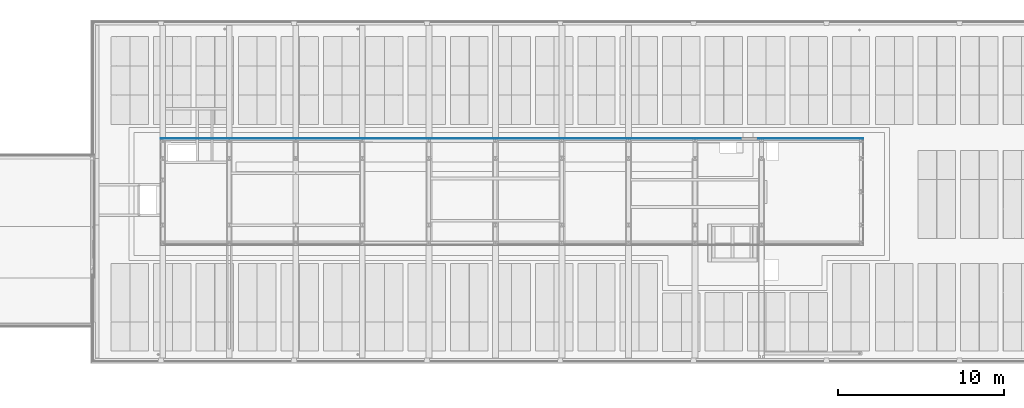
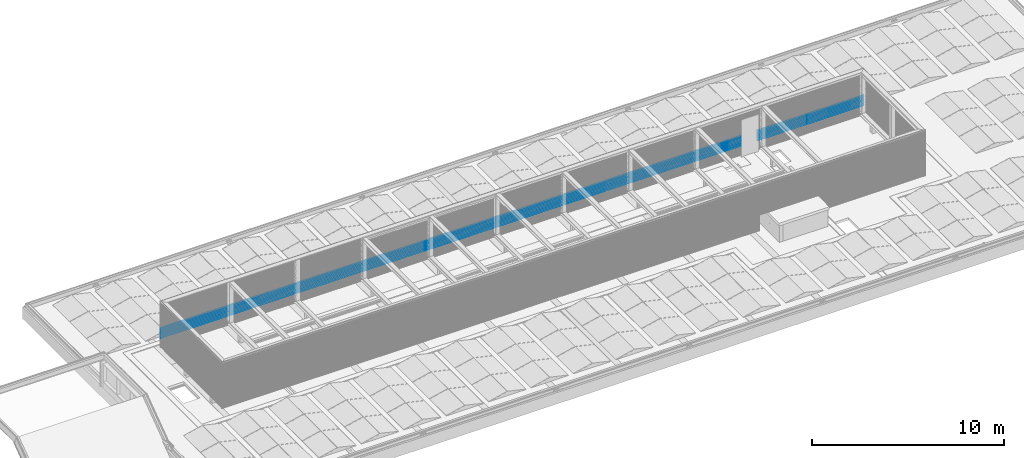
# One storey, part 50 of 63: 9 building element parts, 1 opening, 1 element without a shape of its own.
"""IFC2X3 building model written with IfcOpenShell, lengths in millimetres."""

import ifcopenshell
import ifcopenshell.guid

model = None  # the IFC model being written
_history = None  # IfcOwnerHistory: only IFC2X3 demands one
_inside = {}  # id of a spatial element -> (the spatial element, [elements in it])
_under = {}  # id of a project, library or spatial element -> (it, [spatial elements below it])
_declared = {}  # id of a project -> (the project, [libraries it declares])
_typed = {}  # id of a type object -> (the type object, [elements of that type])
_made_of = {}  # id of a material, layer set ... -> (it, [elements and type objects made of it])


def new_model(schema):
    """Start an empty IFC model of exactly this schema.

    Asked for "IFC4X3", IfcOpenShell would pick the latest addendum, in which some entities
    have other attributes; the version numbers below select the first issue.
    IFC2X3 requires an IfcOwnerHistory on every rooted entity: one is made here for all.
    """
    global model, _history
    if schema == "IFC4X3":
        model = ifcopenshell.file(schema_version=(4, 3, 0, 0))
    else:
        model = ifcopenshell.file(schema=schema)
    _inside.clear()
    _under.clear()
    _declared.clear()
    _typed.clear()
    _made_of.clear()
    _history = None
    if model.schema == "IFC2X3":
        org = make("IfcOrganization", Name="unknown")
        user = make(
            "IfcPersonAndOrganization",
            ThePerson=make("IfcPerson", FamilyName="unknown"),
            TheOrganization=org,
        )
        app = make(
            "IfcApplication",
            ApplicationDeveloper=org,
            Version="unknown",
            ApplicationFullName="unknown",
            ApplicationIdentifier="unknown",
        )
        _history = make(
            "IfcOwnerHistory",
            OwningUser=user,
            OwningApplication=app,
            ChangeAction="ADDED",
            CreationDate=0,
        )
    return model


def make(cls, **values):
    """One entity of the class cls with the attributes given. An attribute that is None is left unset."""
    return model.create_entity(
        cls, **{name: value for name, value in values.items() if value is not None}
    )


def entity(cls, *values):
    """Any entity or typed value of the class cls, its attributes in the order of the schema. None: left unset."""
    e = model.create_entity(cls)
    for i, value in enumerate(values):
        if value is not None:
            e[i] = value
    return e


def rooted(cls, **values):
    """An entity with a GlobalId (a new one), such as an element, a storey or a relation."""
    return make(cls, GlobalId=ifcopenshell.guid.new(), OwnerHistory=_history, **values)


def si_unit(unit_type, name, prefix=None):
    """IfcSIUnit, for example si_unit("LENGTHUNIT", "METRE", prefix="MILLI")."""
    return make("IfcSIUnit", UnitType=unit_type, Prefix=prefix, Name=name)


def converted_unit(unit_type, name, factor, base, dimensions=None, offset=None):
    """IfcConversionBasedUnit, such as the inch: factor (a typed value) times the base unit."""
    return make(
        "IfcConversionBasedUnit"
        if offset is None
        else "IfcConversionBasedUnitWithOffset",
        ConversionOffset=offset,
        Dimensions=None
        if dimensions is None
        else entity("IfcDimensionalExponents", *dimensions),
        UnitType=unit_type,
        Name=name,
        ConversionFactor=make(
            "IfcMeasureWithUnit", ValueComponent=factor, UnitComponent=base
        ),
    )


def derived_unit(unit_type, elements):
    """IfcDerivedUnit: a product of units, each with its exponent."""
    return make(
        "IfcDerivedUnit",
        Elements=[
            make("IfcDerivedUnitElement", Unit=unit, Exponent=power)
            for unit, power in elements
        ],
        UnitType=unit_type,
    )


def money_unit(currency):
    """IfcMonetaryUnit."""
    return make("IfcMonetaryUnit", Currency=currency)


def assignment(units):
    """IfcUnitAssignment: the units of a project."""
    return None if units is None else make("IfcUnitAssignment", Units=units)


def point(xyz):
    """IfcCartesianPoint."""
    return None if xyz is None else make("IfcCartesianPoint", Coordinates=xyz)


def direction(xyz):
    """IfcDirection."""
    return None if xyz is None else make("IfcDirection", DirectionRatios=xyz)


def frame(location, z_axis=None, x_axis=None):
    """IfcAxis2Placement3D, a coordinate frame: its origin and axes. An axis left out is left unset."""
    return make(
        "IfcAxis2Placement3D",
        Location=point(location),
        Axis=direction(z_axis),
        RefDirection=direction(x_axis),
    )


def origin_with_axes():
    """The frame at (0, 0, 0) with the z axis (0, 0, 1) and the x axis (1, 0, 0) written out."""
    return frame((0.0, 0.0, 0.0), z_axis=(0.0, 0.0, 1.0), x_axis=(1.0, 0.0, 0.0))


def place(relative_to, where):
    """IfcLocalPlacement: puts the frame where relative to a parent placement (None: the world)."""
    return make(
        "IfcLocalPlacement", PlacementRelTo=relative_to, RelativePlacement=where
    )


def context(
    kind, dimensions, precision=None, world=None, true_north=None, identifier=None
):
    """IfcGeometricRepresentationContext, for example the 3D "Model" context."""
    return make(
        "IfcGeometricRepresentationContext",
        ContextIdentifier=identifier,
        ContextType=kind,
        CoordinateSpaceDimension=dimensions,
        Precision=precision,
        WorldCoordinateSystem=world,
        TrueNorth=true_north,
    )


def subcontext(parent, identifier, kind, view, scale=None):
    """IfcGeometricRepresentationSubContext, for example "Body" below "Model"."""
    return make(
        "IfcGeometricRepresentationSubContext",
        ContextIdentifier=identifier,
        ContextType=kind,
        ParentContext=parent,
        TargetScale=scale,
        TargetView=view,
    )


def project(units=None, contexts=None):
    """IfcProject with its units and contexts."""
    return rooted(
        "IfcProject",
        Name="project",
        RepresentationContexts=contexts,
        UnitsInContext=assignment(units),
    )


def spatial(cls, under=None, at=None, **own):
    """A site, building, storey or space (cls), placed at a placement, below another one or the project."""
    s = rooted(cls, ObjectPlacement=at, **own)
    if under is not None:
        _under.setdefault(under.id(), (under, []))[1].append(s)
    return s


def faces_of(points, faces, orient=None, outer=None):
    """IfcFace entities. A face is a list of loops; a loop is a list of indices into points, from 0.

    orient and outer hold one flag for each loop. By default every Orientation is true, the
    first loop of a face is its IfcFaceOuterBound and the others are IfcFaceBound.
    """
    made = []
    for i, loops in enumerate(faces):
        bounds = []
        for j, loop in enumerate(loops):
            is_outer = j == 0 if outer is None else outer[i][j]
            bounds.append(
                make(
                    "IfcFaceOuterBound" if is_outer else "IfcFaceBound",
                    Bound=make("IfcPolyLoop", Polygon=[points[k] for k in loop]),
                    Orientation=True if orient is None else orient[i][j],
                )
            )
        made.append(make("IfcFace", Bounds=bounds))
    return made


def faceted_brep(points, faces, orient=None, outer=None, voids=None):
    """IfcFacetedBrep: a solid bounded by flat faces; with voids (closed shells), ...WithVoids."""
    shared = [point(p) for p in points]
    hull = make("IfcClosedShell", CfsFaces=faces_of(shared, faces, orient, outer))
    if voids is None:
        return make("IfcFacetedBrep", Outer=hull)
    return make(
        "IfcFacetedBrepWithVoids",
        Outer=hull,
        Voids=[
            make(cls, CfsFaces=faces_of(shared, fs, o, b)) for cls, fs, o, b in voids
        ],
    )


def shape(context_of_items, identifier, shape_type, items):
    """IfcShapeRepresentation: the items that make up one representation, for example the "Body"."""
    return make(
        "IfcShapeRepresentation",
        ContextOfItems=context_of_items,
        RepresentationIdentifier=identifier,
        RepresentationType=shape_type,
        Items=items,
    )


def material(Name=None, Category=None):
    """IfcMaterial."""
    return make("IfcMaterial", Name=Name, Category=Category)


def made_of(thing, what):
    """Note that an element or type object is made of a material, layer set ...; save() writes the relation."""
    if what is not None:
        _made_of.setdefault(what.id(), (what, []))[1].append(thing)
    return thing


def type_object(cls, material=None, **own):
    """A type object (cls), such as IfcWallType, which elements share."""
    return made_of(rooted(cls, **own), material)


def element(
    cls,
    number,
    at=None,
    inside=None,
    cuts=None,
    type_object=None,
    material=None,
    context=None,
    identifier="Body",
    shape_type=None,
    held_by="IfcProductDefinitionShape",
    body=None,
    shapes=None,
    **own,
):
    """One element of the class cls, such as IfcWall. Its Tag is "e" and its number.

    at: its placement. inside: the storey or other place that contains it. cuts: it is an
    opening in that element (IfcRelVoidsElement). A single representation is given by context,
    identifier, shape_type and body (its items); several are given by shapes. held_by: the class
    of the entity that holds the representations. save() writes the other relations.
    """
    e = rooted(cls, Tag="e%d" % number, ObjectPlacement=at, **own)
    if body is not None:
        shapes = [shape(context, identifier, shape_type, body)]
    if shapes is not None:
        e.Representation = make(held_by, Representations=shapes)
    if inside is not None:
        _inside.setdefault(inside.id(), (inside, []))[1].append(e)
    if cuts is not None:
        rooted(
            "IfcRelVoidsElement", RelatingBuildingElement=cuts, RelatedOpeningElement=e
        )
    if type_object is not None:
        _typed.setdefault(type_object.id(), (type_object, []))[1].append(e)
    return made_of(e, material)


def aggregate(whole, parts):
    """IfcRelAggregates: a whole, such as a stair, and the parts it consists of."""
    return rooted("IfcRelAggregates", RelatingObject=whole, RelatedObjects=parts)


def save(model, path):
    """Write the relations noted so far, then the file.

    IfcRelAggregates (storeys below a building ...), IfcRelContainedInSpatialStructure (elements
    in a storey), IfcRelDefinesByType, IfcRelAssociatesMaterial and IfcRelDeclares: one each for
    every whole, place, type object, material and project.
    """
    for whole, parts in _under.values():
        aggregate(whole, parts)
    for where, things in _inside.values():
        rooted(
            "IfcRelContainedInSpatialStructure",
            RelatedElements=things,
            RelatingStructure=where,
        )
    for kind, things in _typed.values():
        rooted("IfcRelDefinesByType", RelatedObjects=things, RelatingType=kind)
    for what, things in _made_of.values():
        rooted("IfcRelAssociatesMaterial", RelatedObjects=things, RelatingMaterial=what)
    for by, libraries in _declared.values():
        rooted("IfcRelDeclares", RelatingContext=by, RelatedDefinitions=libraries)
    model.write(path)


model = new_model("IFC2X3")

# Units and contexts
model_context = context("Model", 3, precision=0.01, world=origin_with_axes(), true_north=direction((0.0, 1.0)))
body_context = subcontext(model_context, "Body", "Model", "MODEL_VIEW")
ifc_project = project(units=[si_unit("LENGTHUNIT", "METRE", prefix="MILLI"), si_unit("AREAUNIT", "SQUARE_METRE"), si_unit("VOLUMEUNIT", "CUBIC_METRE"), converted_unit("PLANEANGLEUNIT", "DEGREE", entity("IfcPlaneAngleMeasure", 0.0174532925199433), si_unit("PLANEANGLEUNIT", "RADIAN"), dimensions=[0, 0, 0, 0, 0, 0, 0]), money_unit("EUR"), converted_unit("TIMEUNIT", "Year", entity("IfcTimeMeasure", 31557600.0), si_unit("TIMEUNIT", "SECOND"), dimensions=[0, 0, 1, 0, 0, 0, 0]), si_unit("MASSUNIT", "GRAM", prefix="KILO"), si_unit("THERMODYNAMICTEMPERATUREUNIT", "DEGREE_CELSIUS"), si_unit("LUMINOUSINTENSITYUNIT", "LUMEN"), si_unit("ENERGYUNIT", "JOULE", prefix="MEGA"), derived_unit("THERMALCONDUCTANCEUNIT", [(si_unit("POWERUNIT", "WATT"), 1), (si_unit("LENGTHUNIT", "METRE"), -1), (si_unit("THERMODYNAMICTEMPERATUREUNIT", "KELVIN"), -1)]), derived_unit("SPECIFICHEATCAPACITYUNIT", [(si_unit("ENERGYUNIT", "JOULE"), 1), (si_unit("MASSUNIT", "GRAM", prefix="KILO"), -1), (si_unit("THERMODYNAMICTEMPERATUREUNIT", "KELVIN"), -1)]), derived_unit("MASSDENSITYUNIT", [(si_unit("MASSUNIT", "GRAM", prefix="KILO"), 1), (si_unit("VOLUMEUNIT", "CUBIC_METRE"), -1)])], contexts=[model_context])

# Site, building, storey
site_placement = place(None, origin_with_axes())
site = spatial("IfcSite", under=ifc_project, at=site_placement, Name="<site naam>", CompositionType="ELEMENT")
building_placement = place(site_placement, origin_with_axes())
building = spatial("IfcBuilding", under=site, at=building_placement, Name="<Naam gebouw>", CompositionType="ELEMENT")
storey_placement = place(building_placement, frame((0.0, 0.0, 12770.0), z_axis=(0.0, 0.0, 1.0), x_axis=(1.0, 0.0, 0.0)))
storey = spatial("IfcBuildingStorey", under=building, at=storey_placement, Name="04 4e verdieping", CompositionType="ELEMENT", Elevation=12770.0)

# Wall, opening, building element parts
wall_type = type_object("IfcWallType", Name="Gevelbeplating golf 18 x 2900", PredefinedType="NOTDEFINED")
wall_placement = place(storey_placement, frame((58128.00007858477, 13218.00009009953, 299.9552842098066), z_axis=(0.0, 0.0, 1.0), x_axis=(-1.0, 0.0, 0.0)))
wall = element("IfcWall", 1, at=wall_placement, inside=storey, type_object=wall_type, Name="47_Binnenwand_Gevelbeplating")
opening_placement = place(wall_placement, frame((6856.073474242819, 0.0, -120.0392154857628), z_axis=(0.0, 0.0, 1.0), x_axis=(1.0, 0.0, 0.0)))
element("IfcOpeningElement", 2, at=opening_placement, cuts=wall, Name="47_BU-F-02_305", context=body_context, shape_type="Brep", body=[
    faceted_brep([(517.000000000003, 19.00000000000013, 2367.000000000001), (517.000000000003, 19.00000000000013, 0.0), (-517.000000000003, 19.00000000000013, 0.0), (-517.000000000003, 19.00000000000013, 2367.000000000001), (517.000000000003, -1.000078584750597, 2367.000000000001), (517.000000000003, -1.000078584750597, 0.0), (-517.000000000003, -1.000078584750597, 0.0), (-517.000000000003, -1.000078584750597, 2367.000000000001)], [[[0, 1, 2, 3]], [[4, 5, 1, 0]], [[5, 6, 2, 1]], [[6, 7, 3, 2]], [[7, 4, 0, 3]], [[6, 5, 4, 7]]]),
])
ifc_material = material(Name="gevelafwerking type 3 - Aluminium RAL1036")
building_element_part_1_placement = place(wall_placement, origin_with_axes())
building_element_part_1 = element("IfcBuildingElementPart", 3, at=building_element_part_1_placement, material=ifc_material, Name="gevelafwerking type 3 - Aluminium RAL1036", context=body_context, shape_type="Brep", body=[
    faceted_brep([(18238.00007858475, 14.77518280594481, 597.6343117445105), (18238.00007858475, 10.1433027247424, 591.2409035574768), (18018.00007858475, 10.1433027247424, 591.2409035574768), (18018.00007858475, 14.77518280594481, 597.6343117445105), (15.69998590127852, 14.77518280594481, 597.6343117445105), (15.62924858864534, 14.5442206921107, 597.3155113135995), (9.398109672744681, 8.555238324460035, 589.0488877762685), (42247.44495090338, 8.555238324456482, 589.0488877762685), (42241.22498571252, 14.77518280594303, 597.6343117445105), (18238.00007858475, 16.99998333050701, 607.9999993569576), (18238.00007858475, 17.99998571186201, 607.9999993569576), (18238.00007858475, 15.62924858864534, 597.3155113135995), (18238.00007858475, 10.1433027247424, 590.0375080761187), (18018.00007858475, 10.1433027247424, 590.0375080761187), (18018.00007858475, 15.62924858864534, 597.3155113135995), (18018.00007858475, 17.99998571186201, 607.999999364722), (18018.00007858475, 16.99998333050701, 607.999999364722), (17.99998571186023, 16.99998333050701, 608.0000000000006), (17.99998571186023, 17.99998571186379, 608.0000000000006), (15.62924858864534, 15.62924858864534, 597.3155113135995), (9.041569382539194, 9.04156938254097, 588.5758788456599), (9.041569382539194, 8.209533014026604, 588.5758788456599), (3.34011144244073, 2.257344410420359, 580.4317883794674), (42253.74282987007, 2.257344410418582, 580.4317883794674), (42247.44495090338, 9.398109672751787, 589.0488877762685), (42241.45595014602, 15.62924858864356, 597.3155113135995), (42241.22498571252, 15.69998590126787, 597.6343117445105), (42239.00018658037, 16.99998333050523, 607.9999985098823), (42239.00018658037, 17.99998571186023, 607.9999985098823), (42247.79065342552, 9.041569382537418, 588.5758788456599), (3.116464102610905, 3.116464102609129, 580.1123255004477), (3.116464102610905, 2.188217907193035, 580.1123255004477), (42256.00021191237, -1.428813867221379e-05, 569.9999850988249), (0.9999857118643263, -1.428813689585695e-05, 570.0000000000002), (42253.74282987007, 3.340111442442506, 580.4317883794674), (42253.81195979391, 3.116464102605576, 580.1123255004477), (0.9999857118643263, 0.9999857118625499, 570.0000000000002), (42256.00021191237, 0.9999857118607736, 569.9999850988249)], [[[0, 1, 2, 3, 4, 5, 6, 7, 8]], [[1, 0, 9, 10, 11, 12]], [[2, 1, 12, 13]], [[3, 2, 13, 14, 15, 16]], [[3, 16, 17, 4]], [[18, 19, 5, 4, 17]], [[19, 20, 21, 6, 5]], [[7, 6, 21, 22, 23]], [[24, 25, 26, 8, 7]], [[9, 0, 8, 27]], [[10, 9, 27, 28]], [[11, 10, 28, 26, 25]], [[12, 11, 25, 24, 29, 20, 19, 14, 13]], [[15, 14, 19, 18]], [[16, 15, 18, 17]], [[20, 30, 31, 22, 21]], [[32, 23, 22, 31, 33]], [[34, 29, 24, 7, 23]], [[8, 26, 28, 27]], [[34, 35, 30, 20, 29]], [[31, 30, 36, 33]], [[37, 35, 34, 23, 32]], [[37, 32, 33, 36]], [[35, 37, 36, 30]]]),
])
building_element_part_2_placement = place(wall_placement, origin_with_axes())
building_element_part_2 = element("IfcBuildingElementPart", 4, at=building_element_part_2_placement, material=ifc_material, Name="gevelafwerking type 3 - Aluminium RAL1036", context=body_context, shape_type="Brep", body=[
    faceted_brep([(18238.00007858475, 14.77518042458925, 673.6342953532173), (18238.00007858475, 10.1433027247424, 667.240890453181), (18018.00007858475, 10.1433027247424, 667.240890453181), (18018.00007858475, 14.77518042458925, 673.6342953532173), (15.69997988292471, 14.77518042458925, 673.6342953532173), (15.62924620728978, 14.54423018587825, 673.3155113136), (9.398094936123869, 8.555235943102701, 665.0488713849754), (42247.44495090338, 8.555235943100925, 665.0488713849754), (42241.22498571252, 14.77518042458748, 673.6342953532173), (18238.00007858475, 16.99998094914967, 683.9999922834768), (18238.00007858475, 17.99998333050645, 683.9999922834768), (18238.00007858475, 15.62924620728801, 673.3155113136), (18238.00007858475, 10.1433027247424, 666.0375112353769), (18018.00007858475, 10.1433027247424, 666.0375112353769), (18018.00007858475, 15.62924620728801, 673.3155113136), (18018.00007858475, 17.99998333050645, 683.9999923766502), (18018.00007858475, 16.99998094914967, 683.9999923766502), (17.99998333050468, 16.99998094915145, 683.9999999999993), (17.99998333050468, 17.99998333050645, 683.9999999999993), (15.62924620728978, 15.62924620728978, 673.3155113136), (9.041567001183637, 9.041567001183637, 664.5758788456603), (9.041567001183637, 8.209542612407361, 664.5758788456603), (3.34009758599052, 2.257342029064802, 656.4317719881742), (42253.74282987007, 2.257342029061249, 656.4317719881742), (42247.44495090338, 9.398094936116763, 665.0488713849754), (42241.45593827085, 15.62924620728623, 673.3155113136), (42241.22498571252, 15.69997988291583, 673.6342953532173), (42239.00018658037, 16.9999809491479, 683.9999821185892), (42239.00018658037, 17.99998333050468, 683.9999821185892), (42247.79064144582, 9.04156700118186, 664.5758788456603), (3.116461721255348, 3.116461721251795, 656.1123255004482), (3.116461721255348, 2.188209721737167, 656.1123255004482), (42256.0002072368, -1.666949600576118e-05, 646.0000119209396), (0.9999833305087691, -1.66694924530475e-05, 645.999999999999), (42253.74282987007, 3.340097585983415, 656.4317719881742), (42253.81196092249, 3.116461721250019, 656.1123255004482), (0.9999833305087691, 0.9999833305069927, 645.999999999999), (42256.0002072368, 0.9999833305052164, 646.0000119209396)], [[[0, 1, 2, 3, 4, 5, 6, 7, 8]], [[1, 0, 9, 10, 11, 12]], [[2, 1, 12, 13]], [[3, 2, 13, 14, 15, 16]], [[3, 16, 17, 4]], [[18, 19, 5, 4, 17]], [[19, 20, 21, 6, 5]], [[7, 6, 21, 22, 23]], [[24, 25, 26, 8, 7]], [[9, 0, 8, 27]], [[10, 9, 27, 28]], [[11, 10, 28, 26, 25]], [[12, 11, 25, 24, 29, 20, 19, 14, 13]], [[15, 14, 19, 18]], [[16, 15, 18, 17]], [[20, 30, 31, 22, 21]], [[32, 23, 22, 31, 33]], [[34, 29, 24, 7, 23]], [[8, 26, 28, 27]], [[34, 35, 30, 20, 29]], [[31, 30, 36, 33]], [[37, 35, 34, 23, 32]], [[37, 32, 33, 36]], [[35, 37, 36, 30]]]),
])
building_element_part_3_placement = place(wall_placement, origin_with_axes())
building_element_part_3 = element("IfcBuildingElementPart", 5, at=building_element_part_3_placement, material=ifc_material, Name="gevelafwerking type 3 - Aluminium RAL1036", context=body_context, shape_type="Brep", body=[
    faceted_brep([(18238.00007858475, 14.77517804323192, 749.6343221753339), (18238.00007858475, 10.1433027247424, 743.240920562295), (18018.00007858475, 10.1433027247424, 743.240920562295), (18018.00007858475, 14.77517804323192, 749.6343221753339), (15.69998345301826, 14.77517804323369, 749.6343221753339), (15.62924382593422, 14.54420837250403, 749.3155113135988), (9.398112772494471, 8.55523356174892, 741.0488982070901), (42247.44495090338, 8.555233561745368, 741.0488982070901), (42241.22498571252, 14.77517804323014, 749.6343221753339), (18238.00007858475, 16.99997856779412, 760.000003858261), (18238.00007858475, 17.9999809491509, 760.000003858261), (18238.00007858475, 15.62924382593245, 749.3155113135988), (18238.00007858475, 10.1433027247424, 742.0375143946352), (18018.00007858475, 10.1433027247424, 742.0375143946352), (18018.00007858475, 15.62924382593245, 749.3155113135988), (18018.00007858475, 17.9999809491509, 760.0000038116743), (18018.00007858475, 16.99997856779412, 760.0000038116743), (17.99998094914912, 16.99997856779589, 759.9999999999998), (17.99998094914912, 17.9999809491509, 759.9999999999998), (15.62924382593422, 15.62924382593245, 749.3155113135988), (9.04156461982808, 9.04156461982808, 740.5758788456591), (9.04156461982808, 8.209520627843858, 740.5758788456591), (3.340113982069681, 2.257339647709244, 732.4317988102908), (42253.74282987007, 2.257339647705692, 732.4317988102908), (42247.44495090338, 9.398112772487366, 741.0488982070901), (42241.45595770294, 15.62924382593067, 749.3155113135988), (42241.22498571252, 15.69998345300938, 749.6343221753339), (42239.00018658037, 16.99997856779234, 760.0000089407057), (42239.00018658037, 17.99998094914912, 760.0000089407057), (42247.79066104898, 9.041564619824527, 740.5758788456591), (3.116459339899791, 3.116459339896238, 732.1123255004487), (3.116459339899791, 2.18821088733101, 732.1123255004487), (42256.00021191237, -1.905085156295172e-05, 721.9999955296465), (0.9999809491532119, -1.905084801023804e-05, 721.9999999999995), (42253.74282987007, 3.340113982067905, 732.4317988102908), (42253.81196205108, 3.116459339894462, 732.1123255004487), (0.9999809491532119, 0.9999809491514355, 721.9999999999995), (42256.00021191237, 0.9999809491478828, 721.9999955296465)], [[[0, 1, 2, 3, 4, 5, 6, 7, 8]], [[1, 0, 9, 10, 11, 12]], [[2, 1, 12, 13]], [[3, 2, 13, 14, 15, 16]], [[3, 16, 17, 4]], [[18, 19, 5, 4, 17]], [[19, 20, 21, 6, 5]], [[7, 6, 21, 22, 23]], [[24, 25, 26, 8, 7]], [[9, 0, 8, 27]], [[10, 9, 27, 28]], [[11, 10, 28, 26, 25]], [[12, 11, 25, 24, 29, 20, 19, 14, 13]], [[15, 14, 19, 18]], [[16, 15, 18, 17]], [[20, 30, 31, 22, 21]], [[32, 23, 22, 31, 33]], [[34, 29, 24, 7, 23]], [[8, 26, 28, 27]], [[34, 35, 30, 20, 29]], [[31, 30, 36, 33]], [[37, 35, 34, 23, 32]], [[37, 32, 33, 36]], [[35, 37, 36, 30]]]),
])
building_element_part_4_placement = place(wall_placement, origin_with_axes())
building_element_part_4 = element("IfcBuildingElementPart", 6, at=building_element_part_4_placement, material=ifc_material, Name="gevelafwerking type 3 - Aluminium RAL1036", context=body_context, shape_type="Brep", body=[
    faceted_brep([(18238.00007858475, 14.7751732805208, 901.6343326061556), (18238.00007858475, 10.1433027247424, 895.2409375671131), (18018.00007858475, 10.1433027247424, 895.2409375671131), (18018.00007858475, 14.7751732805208, 901.6343326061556), (15.699981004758, 14.7751732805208, 901.6343326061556), (15.62923906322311, 14.54419605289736, 901.3155113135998), (9.398115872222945, 8.55522879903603, 893.0489086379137), (42247.44495090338, 8.555228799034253, 893.0489086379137), (42241.22498571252, 14.77517328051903, 901.6343326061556), (18238.00007858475, 16.99997380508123, 912.0000083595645), (18238.00007858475, 17.999976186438, 912.0000083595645), (18238.00007858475, 15.62923906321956, 901.3155113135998), (18238.00007858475, 10.1433027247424, 894.0375207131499), (18018.00007858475, 10.1433027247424, 894.0375207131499), (18018.00007858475, 15.62923906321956, 901.3155113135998), (18018.00007858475, 17.999976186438, 912.0000082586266), (18018.00007858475, 16.99997380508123, 912.0000082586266), (17.999976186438, 16.999973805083, 911.9999999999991), (17.999976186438, 17.99997618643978, 911.9999999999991), (15.62923906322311, 15.62923906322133, 901.3155113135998), (9.041559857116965, 9.041559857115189, 892.5758788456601), (9.041559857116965, 8.209508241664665, 892.5758788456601), (3.340116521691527, 2.257334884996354, 884.4318092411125), (42253.74282987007, 2.257334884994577, 884.4318092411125), (42247.44495090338, 9.398115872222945, 893.0489086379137), (42241.45596525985, 15.62923906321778, 901.3155113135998), (42241.22498571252, 15.69998100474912, 901.6343326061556), (42239.00018658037, 16.99997380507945, 912.0000193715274), (42239.00018658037, 17.99997618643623, 912.0000193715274), (42247.79066867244, 9.041559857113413, 892.5758788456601), (3.116454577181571, 3.116454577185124, 884.1123255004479), (3.116454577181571, 2.188203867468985, 884.1123255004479), (42256.00021191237, -2.381356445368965e-05, 874.00000596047), (0.9999761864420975, -2.381356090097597e-05, 874.0000000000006), (42253.74282987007, 3.340116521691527, 884.4318092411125), (42253.81196430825, 3.116454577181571, 884.1123255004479), (0.9999761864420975, 0.9999761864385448, 874.0000000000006), (42256.00021191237, 0.9999761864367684, 874.00000596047)], [[[0, 1, 2, 3, 4, 5, 6, 7, 8]], [[1, 0, 9, 10, 11, 12]], [[2, 1, 12, 13]], [[3, 2, 13, 14, 15, 16]], [[3, 16, 17, 4]], [[18, 19, 5, 4, 17]], [[19, 20, 21, 6, 5]], [[7, 6, 21, 22, 23]], [[24, 25, 26, 8, 7]], [[9, 0, 8, 27]], [[10, 9, 27, 28]], [[11, 10, 28, 26, 25]], [[12, 11, 25, 24, 29, 20, 19, 14, 13]], [[15, 14, 19, 18]], [[16, 15, 18, 17]], [[20, 30, 31, 22, 21]], [[32, 23, 22, 31, 33]], [[34, 29, 24, 7, 23]], [[8, 26, 28, 27]], [[34, 35, 30, 20, 29]], [[31, 30, 36, 33]], [[37, 35, 34, 23, 32]], [[37, 32, 33, 36]], [[35, 37, 36, 30]]]),
])
building_element_part_5_placement = place(wall_placement, origin_with_axes())
building_element_part_5 = element("IfcBuildingElementPart", 7, at=building_element_part_5_placement, material=ifc_material, Name="gevelafwerking type 3 - Aluminium RAL1036", context=body_context, shape_type="Brep", body=[
    faceted_brep([(18238.00007858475, 14.77517566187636, 825.6343057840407), (18238.00007858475, 10.1433027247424, 819.240907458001), (18018.00007858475, 10.1433027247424, 819.240907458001), (18018.00007858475, 14.77517566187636, 825.6343057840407), (15.69997743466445, 14.77517566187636, 825.6343057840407), (15.62924144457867, 14.5442178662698, 825.3155113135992), (9.398098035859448, 8.555231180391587, 817.048881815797), (42247.44495090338, 8.555231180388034, 817.048881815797), (42241.22498571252, 14.77517566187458, 825.6343057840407), (18238.00007858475, 16.99997618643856, 835.999996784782), (18238.00007858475, 17.99997856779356, 835.999996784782), (18238.00007858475, 15.62924144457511, 825.3155113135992), (18238.00007858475, 10.1433027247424, 818.0375175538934), (18018.00007858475, 10.1433027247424, 818.0375175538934), (18018.00007858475, 15.62924144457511, 825.3155113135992), (18018.00007858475, 17.99997856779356, 835.9999968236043), (18018.00007858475, 16.99997618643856, 835.9999968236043), (17.99997856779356, 16.99997618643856, 836.0000000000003), (17.99997856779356, 17.99997856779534, 836.0000000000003), (15.62924144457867, 15.62924144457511, 825.3155113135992), (9.041562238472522, 9.041562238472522, 816.5758788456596), (9.041562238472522, 8.209530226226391, 816.5758788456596), (3.340100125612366, 2.257337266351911, 808.4317824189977), (42253.74282987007, 2.257337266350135, 808.4317824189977), (42247.44495090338, 9.398098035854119, 817.048881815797), (42241.45594582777, 15.62924144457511, 825.3155113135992), (42241.22498571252, 15.69997743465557, 825.6343057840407), (42239.00018658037, 16.99997618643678, 835.9999925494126), (42239.00018658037, 17.99997856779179, 835.9999925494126), (42247.79064906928, 9.04156223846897, 816.5758788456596), (3.116456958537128, 3.116456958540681, 808.1123255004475), (3.116456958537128, 2.188212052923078, 808.1123255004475), (42256.00021191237, -2.143220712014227e-05, 797.9999791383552), (0.9999785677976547, -2.143220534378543e-05, 798.0), (42253.74282987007, 3.34010012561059, 808.4317824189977), (42253.81195850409, 3.116456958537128, 808.1123255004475), (0.9999785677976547, 0.9999785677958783, 798.0), (42256.00021191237, 0.9999785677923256, 797.9999791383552)], [[[0, 1, 2, 3, 4, 5, 6, 7, 8]], [[1, 0, 9, 10, 11, 12]], [[2, 1, 12, 13]], [[3, 2, 13, 14, 15, 16]], [[3, 16, 17, 4]], [[18, 19, 5, 4, 17]], [[19, 20, 21, 6, 5]], [[7, 6, 21, 22, 23]], [[24, 25, 26, 8, 7]], [[9, 0, 8, 27]], [[10, 9, 27, 28]], [[11, 10, 28, 26, 25]], [[12, 11, 25, 24, 29, 20, 19, 14, 13]], [[15, 14, 19, 18]], [[16, 15, 18, 17]], [[20, 30, 31, 22, 21]], [[32, 23, 22, 31, 33]], [[34, 29, 24, 7, 23]], [[8, 26, 28, 27]], [[34, 35, 30, 20, 29]], [[31, 30, 36, 33]], [[37, 35, 34, 23, 32]], [[37, 32, 33, 36]], [[35, 37, 36, 30]]]),
])
building_element_part_6_placement = place(wall_placement, origin_with_axes())
building_element_part_6 = element("IfcBuildingElementPart", 8, at=building_element_part_6_placement, material=ifc_material, Name="gevelafwerking type 3 - Aluminium RAL1036", context=body_context, shape_type="Brep", body=[
    faceted_brep([(18238.00007858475, 14.77517089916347, 977.6343162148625), (18238.00007858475, 10.1433027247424, 971.2409244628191), (18018.00007858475, 10.1433027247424, 971.2409244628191), (18018.00007858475, 14.77517089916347, 977.6343162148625), (15.69997498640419, 14.77517089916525, 977.6343162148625), (15.62923668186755, 14.54420554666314, 977.3155113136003), (9.398101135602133, 8.555226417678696, 969.0488922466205), (42247.44495090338, 8.55522641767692, 969.0488922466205), (42241.22498571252, 14.77517089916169, 977.6343162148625), (18238.00007858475, 16.99997142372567, 988.0000012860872), (18238.00007858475, 17.99997380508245, 988.0000012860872), (18238.00007858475, 15.629236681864, 977.3155113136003), (18238.00007858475, 10.1433027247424, 970.0375238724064), (18018.00007858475, 10.1433027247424, 970.0375238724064), (18018.00007858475, 15.629236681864, 977.3155113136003), (18018.00007858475, 17.99997380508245, 988.0000012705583), (18018.00007858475, 16.99997142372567, 988.0000012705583), (17.99997380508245, 16.99997142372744, 987.9999999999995), (17.99997380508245, 17.99997380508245, 987.9999999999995), (15.62923668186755, 15.629236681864, 977.3155113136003), (9.041557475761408, 9.041557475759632, 968.5758788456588), (9.041557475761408, 8.209517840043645, 968.5758788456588), (3.340102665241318, 2.257332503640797, 960.4317928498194), (42253.74282987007, 2.257332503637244, 960.4317928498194), (42247.44495090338, 9.398101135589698, 969.0488922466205), (42241.45595338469, 15.62923668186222, 977.3155113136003), (42241.22498571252, 15.69997498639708, 977.6343162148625), (42239.00018658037, 16.99997142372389, 988.0000029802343), (42239.00018658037, 17.99997380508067, 988.0000029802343), (42247.79065669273, 9.041557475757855, 968.5758788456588), (3.116452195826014, 3.11645219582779, 960.1123255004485), (3.116452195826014, 2.188205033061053, 960.1123255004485), (42256.00021191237, -2.61949200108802e-05, 949.9999895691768), (0.9999738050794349, -2.619491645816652e-05, 949.9999999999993), (42253.74282987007, 3.340102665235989, 960.4317928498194), (42253.81196076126, 3.116452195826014, 960.1123255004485), (0.9999738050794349, 0.9999738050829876, 949.9999999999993), (42256.00021191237, 0.9999738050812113, 949.9999895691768)], [[[0, 1, 2, 3, 4, 5, 6, 7, 8]], [[1, 0, 9, 10, 11, 12]], [[2, 1, 12, 13]], [[3, 2, 13, 14, 15, 16]], [[3, 16, 17, 4]], [[18, 19, 5, 4, 17]], [[19, 20, 21, 6, 5]], [[7, 6, 21, 22, 23]], [[24, 25, 26, 8, 7]], [[9, 0, 8, 27]], [[10, 9, 27, 28]], [[11, 10, 28, 26, 25]], [[12, 11, 25, 24, 29, 20, 19, 14, 13]], [[15, 14, 19, 18]], [[16, 15, 18, 17]], [[20, 30, 31, 22, 21]], [[32, 23, 22, 31, 33]], [[34, 29, 24, 7, 23]], [[8, 26, 28, 27]], [[34, 35, 30, 20, 29]], [[31, 30, 36, 33]], [[37, 35, 34, 23, 32]], [[37, 32, 33, 36]], [[35, 37, 36, 30]]]),
])
building_element_part_7_placement = place(wall_placement, origin_with_axes())
building_element_part_7 = element("IfcBuildingElementPart", 9, at=building_element_part_7_placement, material=ifc_material, Name="gevelafwerking type 3 - Aluminium RAL1036", context=body_context, shape_type="Brep", body=[
    faceted_brep([(18238.00007858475, 14.77516613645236, 1205.634310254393), (18238.00007858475, 10.1433027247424, 1199.240925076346), (18018.00007858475, 10.1433027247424, 1199.240925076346), (18018.00007858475, 14.77516613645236, 1205.634310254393), (15.69996890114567, 14.77516613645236, 1205.634310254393), (15.62923191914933, 14.5442051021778, 1205.3155113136), (9.398091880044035, 8.555221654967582, 1197.048886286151), (42247.44495090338, 8.555221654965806, 1197.048886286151), (42241.22502892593, 14.77516613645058, 1205.634310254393), (18238.00007858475, 16.99996666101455, 1215.999998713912), (18238.00007858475, 17.99996904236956, 1215.999998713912), (18238.00007858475, 15.62923191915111, 1205.3155113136), (18238.00007858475, 10.1433027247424, 1198.037530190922), (18018.00007858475, 10.1433027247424, 1198.037530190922), (18018.00007858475, 15.62923191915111, 1205.3155113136), (18018.00007858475, 17.99996904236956, 1215.999998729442), (18018.00007858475, 16.99996666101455, 1215.999998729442), (17.99996904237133, 16.99996666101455, 1215.999999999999), (17.99996904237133, 17.99996904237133, 1215.999999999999), (15.62923191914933, 15.62923191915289, 1205.3155113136), (9.041552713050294, 9.041552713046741, 1196.575878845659), (9.041552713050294, 8.209517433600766, 1196.575878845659), (3.340093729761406, 2.257327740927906, 1188.43178688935), (42253.74282987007, 2.257327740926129, 1188.43178688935), (42247.44495090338, 9.398091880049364, 1197.048886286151), (42241.45599067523, 15.62923191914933, 1205.3155113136), (42241.22502892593, 15.69996890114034, 1205.634310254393), (42239.00022979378, 16.99996666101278, 1215.999997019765), (42239.00022979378, 17.99996904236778, 1215.999997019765), (42247.79065233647, 9.041552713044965, 1196.575878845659), (3.116447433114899, 3.116447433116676, 1188.112325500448), (3.116447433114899, 2.188201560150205, 1188.112325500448), (42256.00021191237, -3.095763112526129e-05, 1177.999983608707), (0.9999690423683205, -3.095762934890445e-05, 1177.999999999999), (42253.74282987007, 3.34009372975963, 1188.43178688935), (42253.81195947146, 3.116447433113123, 1188.112325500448), (0.9999690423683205, 0.9999690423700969, 1177.999999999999), (42256.00021191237, 0.9999690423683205, 1177.999983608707)], [[[0, 1, 2, 3, 4, 5, 6, 7, 8]], [[1, 0, 9, 10, 11, 12]], [[2, 1, 12, 13]], [[3, 2, 13, 14, 15, 16]], [[3, 16, 17, 4]], [[18, 19, 5, 4, 17]], [[19, 20, 21, 6, 5]], [[7, 6, 21, 22, 23]], [[24, 25, 26, 8, 7]], [[9, 0, 8, 27]], [[10, 9, 27, 28]], [[11, 10, 28, 26, 25]], [[12, 11, 25, 24, 29, 20, 19, 14, 13]], [[15, 14, 19, 18]], [[16, 15, 18, 17]], [[20, 30, 31, 22, 21]], [[32, 23, 22, 31, 33]], [[34, 29, 24, 7, 23]], [[8, 26, 28, 27]], [[34, 35, 30, 20, 29]], [[31, 30, 36, 33]], [[37, 35, 34, 23, 32]], [[37, 32, 33, 36]], [[35, 37, 36, 30]]]),
])
building_element_part_8_placement = place(wall_placement, origin_with_axes())
building_element_part_8 = element("IfcBuildingElementPart", 10, at=building_element_part_8_placement, material=ifc_material, Name="gevelafwerking type 3 - Aluminium RAL1036", context=body_context, shape_type="Brep", body=[
    faceted_brep([(18238.00007858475, 14.77516851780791, 1053.634299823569), (18238.00007858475, 10.1433027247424, 1047.240911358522), (18018.00007858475, 10.1433027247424, 1047.240911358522), (18018.00007858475, 14.77516851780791, 1053.634299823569), (15.69996896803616, 14.77516851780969, 1053.634299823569), (15.629234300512, 14.54421504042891, 1053.315511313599), (9.39808639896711, 8.555224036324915, 1045.048875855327), (42247.44495090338, 8.555224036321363, 1045.048875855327), (42241.22502892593, 14.77516851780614, 1053.634299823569), (18238.00007858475, 16.99996904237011, 1063.999994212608), (18238.00007858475, 17.99997142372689, 1063.999994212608), (18238.00007858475, 15.62923430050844, 1053.315511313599), (18238.00007858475, 10.1433027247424, 1046.037527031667), (18018.00007858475, 10.1433027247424, 1046.037527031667), (18018.00007858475, 15.62923430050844, 1053.315511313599), (18018.00007858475, 17.99997142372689, 1063.999994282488), (18018.00007858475, 16.99996904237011, 1063.999994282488), (17.99997142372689, 16.99996904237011, 1064.0), (17.99997142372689, 17.99997142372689, 1064.0), (15.629234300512, 15.62923430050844, 1053.315511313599), (9.041555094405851, 9.041555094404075, 1044.575878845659), (9.041555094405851, 8.209527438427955, 1044.575878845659), (3.340088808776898, 2.257330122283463, 1036.431776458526), (42253.74282987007, 2.257330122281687, 1036.431776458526), (42247.44495090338, 9.398086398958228, 1045.048875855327), (42241.45598311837, 15.62923430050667, 1053.315511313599), (42241.22502892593, 15.69996896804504, 1053.634299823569), (42239.00022979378, 16.99996904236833, 1063.999986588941), (42239.00022979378, 17.99997142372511, 1063.999986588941), (42247.79064471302, 9.041555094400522, 1044.575878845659), (3.116449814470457, 3.116449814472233, 1036.112325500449), (3.116449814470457, 2.188196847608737, 1036.112325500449), (42256.0002072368, -2.857627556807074e-05, 1026.000016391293), (0.9999714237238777, -2.85762737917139e-05, 1026.0), (42253.74282987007, 3.340088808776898, 1036.431776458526), (42253.81196188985, 3.11644981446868, 1036.112325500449), (0.9999714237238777, 0.9999714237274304, 1026.0), (42256.0002072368, 0.9999714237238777, 1026.000016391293)], [[[0, 1, 2, 3, 4, 5, 6, 7, 8]], [[1, 0, 9, 10, 11, 12]], [[2, 1, 12, 13]], [[3, 2, 13, 14, 15, 16]], [[3, 16, 17, 4]], [[18, 19, 5, 4, 17]], [[19, 20, 21, 6, 5]], [[7, 6, 21, 22, 23]], [[24, 25, 26, 8, 7]], [[9, 0, 8, 27]], [[10, 9, 27, 28]], [[11, 10, 28, 26, 25]], [[12, 11, 25, 24, 29, 20, 19, 14, 13]], [[15, 14, 19, 18]], [[16, 15, 18, 17]], [[20, 30, 31, 22, 21]], [[32, 23, 22, 31, 33]], [[34, 29, 24, 7, 23]], [[8, 26, 28, 27]], [[34, 35, 30, 20, 29]], [[31, 30, 36, 33]], [[37, 35, 34, 23, 32]], [[37, 32, 33, 36]], [[35, 37, 36, 30]]]),
])
building_element_part_9_placement = place(wall_placement, origin_with_axes())
building_element_part_9 = element("IfcBuildingElementPart", 11, at=building_element_part_9_placement, material=ifc_material, Name="gevelafwerking type 3 - Aluminium RAL1036", context=body_context, shape_type="Brep", body=[
    faceted_brep([(18238.00007858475, 14.77516613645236, 1129.634326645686), (18238.00007858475, 10.1433027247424, 1123.240941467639), (18018.00007858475, 10.1433027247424, 1123.240941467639), (18018.00007858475, 14.77516613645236, 1129.634326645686), (15.69997253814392, 14.77516613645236, 1129.634326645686), (15.62923191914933, 14.54419322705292, 1129.315511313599), (9.398104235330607, 8.555221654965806, 1121.048902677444), (42247.44495090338, 8.55522165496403, 1121.048902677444), (42241.22502892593, 14.77516613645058, 1129.634326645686), (18238.00007858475, 16.99996666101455, 1140.000005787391), (18238.00007858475, 17.99996904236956, 1140.000005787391), (18238.00007858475, 15.62923191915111, 1129.315511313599), (18238.00007858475, 10.1433027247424, 1122.037530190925), (18018.00007858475, 10.1433027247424, 1122.037530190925), (18018.00007858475, 15.62923191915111, 1129.315511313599), (18018.00007858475, 17.99996904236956, 1140.000005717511), (18018.00007858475, 16.99996666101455, 1140.000005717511), (17.99996904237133, 16.99996666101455, 1139.999999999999), (17.99996904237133, 17.99996904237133, 1139.999999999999), (15.62923191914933, 15.62923191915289, 1129.315511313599), (9.041552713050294, 9.041552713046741, 1120.57587884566), (9.041552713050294, 8.2095054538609, 1120.57587884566), (3.34010520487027, 2.257327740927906, 1112.431803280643), (42253.74282987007, 2.257327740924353, 1112.431803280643), (42247.44495090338, 9.398104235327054, 1121.048902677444), (42241.45600255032, 15.62923191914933, 1129.315511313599), (42241.22502892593, 15.69997253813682, 1129.634326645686), (42239.00022979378, 16.99996666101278, 1140.000013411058), (42239.00022979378, 17.99996904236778, 1140.000013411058), (42247.79066431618, 9.041552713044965, 1120.57587884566), (3.116447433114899, 3.116447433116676, 1112.112325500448), (3.116447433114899, 2.188198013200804, 1112.112325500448), (42256.00021191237, -3.095763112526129e-05, 1102.0), (0.9999690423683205, -3.095762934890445e-05, 1102.0), (42253.74282987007, 3.340105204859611, 1112.431803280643), (42253.81196301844, 3.116447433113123, 1112.112325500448), (0.9999690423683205, 0.9999690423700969, 1102.0), (42256.00021191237, 0.9999690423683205, 1102.0)], [[[0, 1, 2, 3, 4, 5, 6, 7, 8]], [[1, 0, 9, 10, 11, 12]], [[2, 1, 12, 13]], [[3, 2, 13, 14, 15, 16]], [[3, 16, 17, 4]], [[18, 19, 5, 4, 17]], [[19, 20, 21, 6, 5]], [[7, 6, 21, 22, 23]], [[24, 25, 26, 8, 7]], [[9, 0, 8, 27]], [[10, 9, 27, 28]], [[11, 10, 28, 26, 25]], [[12, 11, 25, 24, 29, 20, 19, 14, 13]], [[15, 14, 19, 18]], [[16, 15, 18, 17]], [[20, 30, 31, 22, 21]], [[32, 23, 22, 31, 33]], [[34, 29, 24, 7, 23]], [[8, 26, 28, 27]], [[34, 35, 30, 20, 29]], [[31, 30, 36, 33]], [[37, 35, 34, 23, 32]], [[37, 32, 33, 36]], [[35, 37, 36, 30]]]),
])
aggregate(wall, [building_element_part_1, building_element_part_2, building_element_part_3, building_element_part_4, building_element_part_5, building_element_part_6, building_element_part_7, building_element_part_8, building_element_part_9])

save(model, "model.ifc")
